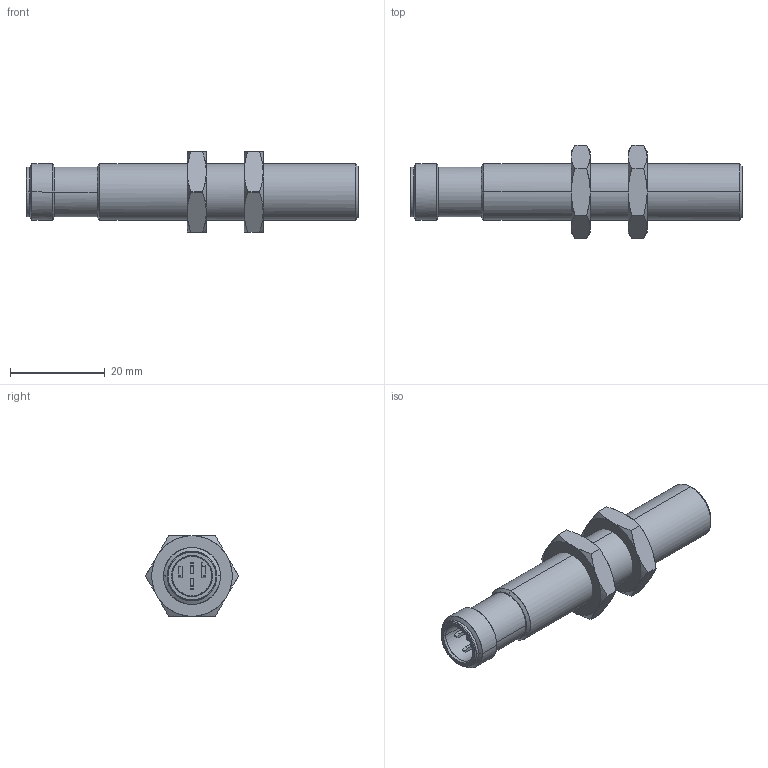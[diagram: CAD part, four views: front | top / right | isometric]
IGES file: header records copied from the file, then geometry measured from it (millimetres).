
Start section: Comment
Global section: file name: UNAM_12X1X14_S14.igs; native system:  By Spatial Corp.; preprocessor: XPlus GENERIC/IGES 3.0; author: Author; organization: Title; date: 20070110.084920; units: millimetre
Bounding box: 70 x 19.63 x 17 mm (x, y, z)
Surface area: 4476.2 mm2 (no closed solid volume)
Topology: 0 solids, 0 shells, 117 faces, 542 edges, 542 vertices
Faces by surface type: bspline 117
